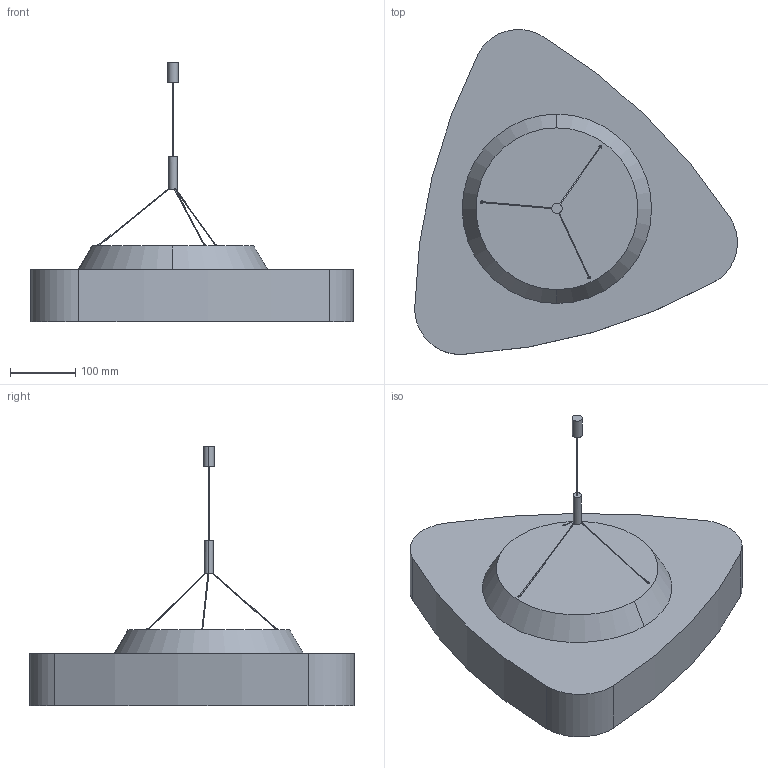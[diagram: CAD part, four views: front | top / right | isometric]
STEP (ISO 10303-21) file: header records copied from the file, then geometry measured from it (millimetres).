
FILE_DESCRIPTION(('Creo Elements/Direct Modeling STEP Export'),'2;1');
FILE_NAME('RON LED PENDELSET 510.stp','2016-04-05T14:10:36',(''),(''),'Creo Elements/Direct Modeling STEP processor for AP214 (Solid Model)','Creo Elements/Direct Modeling 18.1A 09-Jun-2012 (C) Parametric Technology GmbH','');
FILE_SCHEMA(('AUTOMOTIVE_DESIGN { 1 0 10303 214 1 1 1 1 }'));
Length unit declared in the file: millimetre
Products named in the file (2): RON_LED; RON_LED_510
Assembly tree (1 placements, depth 2):
  RON_LED_510
    RON_LED
Bounding box: 495.43 x 498.82 x 399.1 mm (x, y, z)
Volume: 13662398.1 mm3; surface area: 633155.5 mm2
Topology: 1 solids, 2 shells, 92 faces, 213 edges, 142 vertices
Faces by surface type: cylinder 61, plane 27, cone 4
Entity records: 2879 total; most frequent: CARTESIAN_POINT 917, ORIENTED_EDGE 426, DIRECTION 366, EDGE_CURVE 213, AXIS2_PLACEMENT_3D 151, VERTEX_POINT 142, EDGE_LOOP 113, FACE_OUTER_BOUND 92
